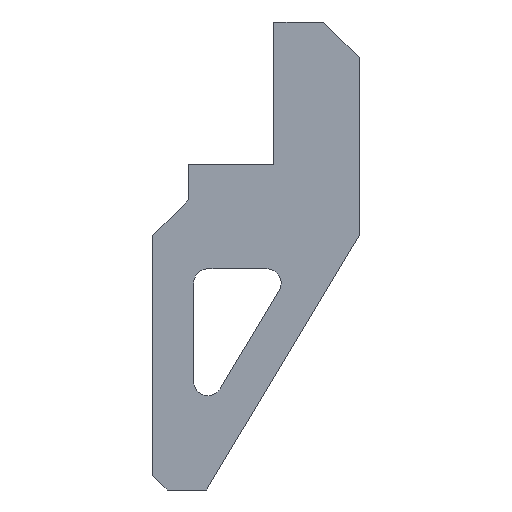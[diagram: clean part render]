
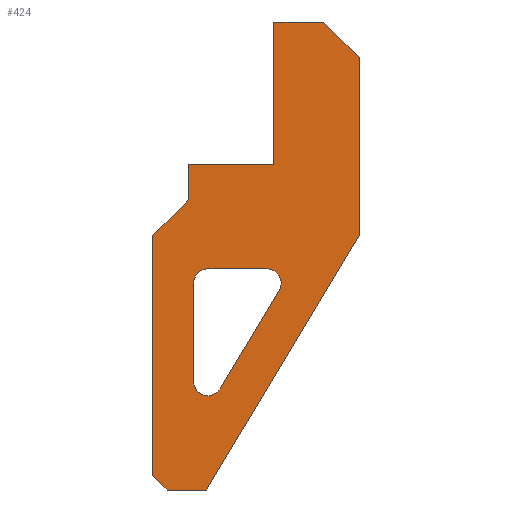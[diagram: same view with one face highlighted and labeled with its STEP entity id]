
A CAD part, left-side view. The second image highlights one B-rep face of the part: STEP entity #424.
In plain terms, the highlighted planar face has unit normal (-1, 0, 0).
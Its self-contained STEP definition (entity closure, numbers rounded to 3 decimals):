
#18=FACE_BOUND('',#83,.T.);
#35=PLANE('',#479);
#57=FACE_OUTER_BOUND('',#82,.T.);
#82=EDGE_LOOP('',(#377,#378,#379,#380,#381,#382,#383,#384,#385,#386,#387));
#83=EDGE_LOOP('',(#388,#389,#390,#391,#392,#393));
#88=LINE('',#606,#135);
#95=LINE('',#627,#142);
#96=LINE('',#629,#143);
#100=LINE('',#638,#147);
#113=LINE('',#663,#160);
#116=LINE('',#680,#163);
#119=LINE('',#684,#166);
#120=LINE('',#687,#167);
#122=LINE('',#691,#169);
#124=LINE('',#696,#171);
#128=LINE('',#702,#175);
#130=LINE('',#706,#177);
#131=LINE('',#708,#178);
#132=LINE('',#710,#179);
#135=VECTOR('',#493,10.);
#142=VECTOR('',#514,10.);
#143=VECTOR('',#517,10.);
#147=VECTOR('',#523,10.);
#160=VECTOR('',#540,10.);
#163=VECTOR('',#559,10.);
#166=VECTOR('',#564,10.);
#167=VECTOR('',#567,10.);
#169=VECTOR('',#571,10.);
#171=VECTOR('',#575,10.);
#175=VECTOR('',#581,10.);
#177=VECTOR('',#585,10.);
#178=VECTOR('',#588,10.);
#179=VECTOR('',#591,10.);
#181=CIRCLE('',#451,2.);
#183=CIRCLE('',#455,2.);
#185=CIRCLE('',#458,2.);
#192=VERTEX_POINT('',#599);
#193=VERTEX_POINT('',#601);
#194=VERTEX_POINT('',#605);
#197=VERTEX_POINT('',#613);
#200=VERTEX_POINT('',#620);
#201=VERTEX_POINT('',#622);
#204=VERTEX_POINT('',#635);
#205=VERTEX_POINT('',#637);
#215=VERTEX_POINT('',#661);
#220=VERTEX_POINT('',#678);
#221=VERTEX_POINT('',#679);
#222=VERTEX_POINT('',#686);
#223=VERTEX_POINT('',#690);
#224=VERTEX_POINT('',#694);
#225=VERTEX_POINT('',#695);
#226=VERTEX_POINT('',#700);
#227=VERTEX_POINT('',#704);
#230=EDGE_CURVE('',#193,#192,#181,.T.);
#232=EDGE_CURVE('',#193,#194,#88,.T.);
#236=EDGE_CURVE('',#197,#194,#183,.T.);
#240=EDGE_CURVE('',#201,#200,#185,.T.);
#243=EDGE_CURVE('',#201,#192,#95,.T.);
#244=EDGE_CURVE('',#197,#200,#96,.T.);
#248=EDGE_CURVE('',#205,#204,#100,.T.);
#261=EDGE_CURVE('',#204,#215,#113,.T.);
#268=EDGE_CURVE('',#220,#221,#116,.T.);
#271=EDGE_CURVE('',#221,#205,#119,.T.);
#272=EDGE_CURVE('',#222,#220,#120,.T.);
#274=EDGE_CURVE('',#215,#223,#122,.T.);
#276=EDGE_CURVE('',#224,#225,#124,.T.);
#280=EDGE_CURVE('',#225,#226,#128,.T.);
#282=EDGE_CURVE('',#227,#226,#130,.T.);
#283=EDGE_CURVE('',#222,#227,#131,.T.);
#284=EDGE_CURVE('',#223,#224,#132,.T.);
#377=ORIENTED_EDGE('',*,*,#248,.T.);
#378=ORIENTED_EDGE('',*,*,#261,.T.);
#379=ORIENTED_EDGE('',*,*,#274,.T.);
#380=ORIENTED_EDGE('',*,*,#284,.T.);
#381=ORIENTED_EDGE('',*,*,#276,.T.);
#382=ORIENTED_EDGE('',*,*,#280,.T.);
#383=ORIENTED_EDGE('',*,*,#282,.F.);
#384=ORIENTED_EDGE('',*,*,#283,.F.);
#385=ORIENTED_EDGE('',*,*,#272,.T.);
#386=ORIENTED_EDGE('',*,*,#268,.T.);
#387=ORIENTED_EDGE('',*,*,#271,.T.);
#388=ORIENTED_EDGE('',*,*,#243,.F.);
#389=ORIENTED_EDGE('',*,*,#240,.T.);
#390=ORIENTED_EDGE('',*,*,#244,.F.);
#391=ORIENTED_EDGE('',*,*,#236,.T.);
#392=ORIENTED_EDGE('',*,*,#232,.F.);
#393=ORIENTED_EDGE('',*,*,#230,.T.);
#424=ADVANCED_FACE('',(#57,#18),#35,.F.);
#451=AXIS2_PLACEMENT_3D('',#602,#488,#489);
#455=AXIS2_PLACEMENT_3D('',#614,#500,#501);
#458=AXIS2_PLACEMENT_3D('',#623,#508,#509);
#479=AXIS2_PLACEMENT_3D('',#709,#589,#590);
#488=DIRECTION('center_axis',(1.,0.,0.));
#489=DIRECTION('ref_axis',(0.,0.707,0.707));
#493=DIRECTION('',(0.,0.,-1.));
#500=DIRECTION('center_axis',(1.,0.,0.));
#501=DIRECTION('ref_axis',(0.,1.,0.));
#508=DIRECTION('center_axis',(1.,0.,0.));
#509=DIRECTION('ref_axis',(0.,-0.87,0.493));
#514=DIRECTION('',(0.,1.,0.));
#517=DIRECTION('',(0.,-0.514,0.857));
#523=DIRECTION('',(0.,-0.707,-0.707));
#540=DIRECTION('',(0.,-1.,0.));
#559=DIRECTION('',(0.,0.707,-0.707));
#564=DIRECTION('',(0.,0.,-1.));
#567=DIRECTION('',(0.,0.,-1.));
#571=DIRECTION('',(0.,-0.514,0.857));
#575=DIRECTION('',(0.,0.707,0.707));
#581=DIRECTION('',(0.,1.,0.));
#585=DIRECTION('',(0.,0.,1.));
#588=DIRECTION('',(0.,-1.,0.));
#589=DIRECTION('center_axis',(1.,0.,0.));
#590=DIRECTION('ref_axis',(0.,-1.,0.));
#591=DIRECTION('',(0.,0.,1.));
#599=CARTESIAN_POINT('',(-6.,9.255,-14.684));
#601=CARTESIAN_POINT('',(-6.,11.255,-16.684));
#602=CARTESIAN_POINT('Origin',(-6.,9.255,-16.684));
#605=CARTESIAN_POINT('',(-6.,11.255,-30.492));
#606=CARTESIAN_POINT('',(-6.,11.255,-18.014));
#613=CARTESIAN_POINT('',(-6.,7.54,-31.521));
#614=CARTESIAN_POINT('Origin',(-6.,9.255,-30.492));
#620=CARTESIAN_POINT('',(-6.,-0.745,-17.713));
#622=CARTESIAN_POINT('',(-6.,0.97,-14.684));
#623=CARTESIAN_POINT('Origin',(-6.,0.97,-16.684));
#627=CARTESIAN_POINT('',(-6.,11.627,-14.684));
#629=CARTESIAN_POINT('',(-6.,-3.874,-12.498));
#635=CARTESIAN_POINT('',(-6.,15.,-45.749));
#637=CARTESIAN_POINT('',(-6.,17.,-43.749));
#638=CARTESIAN_POINT('',(-6.,26.187,-34.562));
#661=CARTESIAN_POINT('',(-6.,9.449,-45.749));
#663=CARTESIAN_POINT('',(-6.,4.725,-45.749));
#678=CARTESIAN_POINT('',(-6.,12.,-5.));
#679=CARTESIAN_POINT('',(-6.,17.,-10.));
#680=CARTESIAN_POINT('',(-6.,12.,-5.));
#684=CARTESIAN_POINT('',(-6.,17.,-10.));
#686=CARTESIAN_POINT('',(-6.,12.,0.));
#687=CARTESIAN_POINT('',(-6.,12.,0.));
#690=CARTESIAN_POINT('',(-6.,-12.,-10.));
#691=CARTESIAN_POINT('',(-6.,-6.469,-19.219));
#694=CARTESIAN_POINT('',(-6.,-12.,15.));
#695=CARTESIAN_POINT('',(-6.,-7.,20.));
#696=CARTESIAN_POINT('',(-6.,-8.5,18.5));
#700=CARTESIAN_POINT('',(-6.,0.,20.));
#702=CARTESIAN_POINT('',(-6.,-12.,20.));
#704=CARTESIAN_POINT('',(-6.,0.,0.));
#706=CARTESIAN_POINT('',(-6.,0.,0.));
#708=CARTESIAN_POINT('',(-6.,12.,0.));
#709=CARTESIAN_POINT('Origin',(-6.,12.,0.));
#710=CARTESIAN_POINT('',(-6.,-12.,0.));
